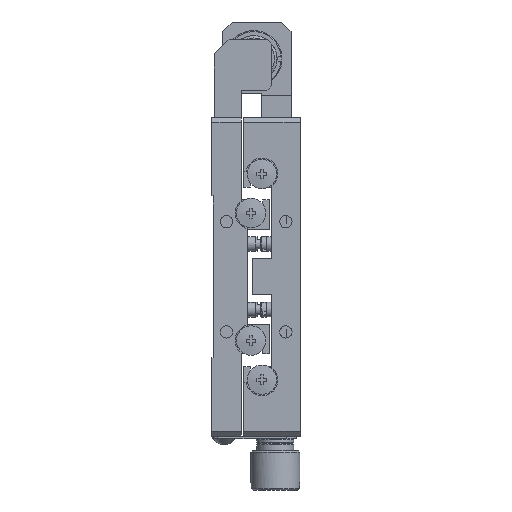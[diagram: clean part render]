
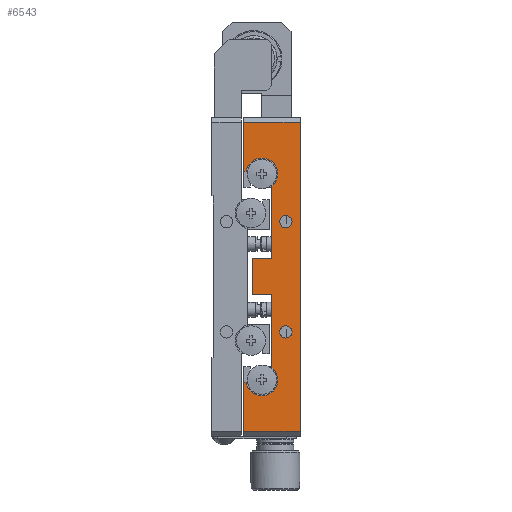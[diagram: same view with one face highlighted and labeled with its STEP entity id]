
A CAD part, left-side view. The second image highlights one B-rep face of the part: STEP entity #6543.
In plain terms, the highlighted planar face has unit normal (-1, 0, 0).
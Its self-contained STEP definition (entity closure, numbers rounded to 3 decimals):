
#114 = CARTESIAN_POINT ( 'NONE',  ( -32.5, 11.5, 32.5 ) ) ;
#155 = FACE_BOUND ( 'NONE', #12787, .T. ) ;
#310 = VECTOR ( 'NONE', #15365, 1000. ) ;
#340 = ORIENTED_EDGE ( 'NONE', *, *, #6687, .F. ) ;
#472 = EDGE_CURVE ( 'NONE', #5428, #7863, #18716, .T. ) ;
#504 = VERTEX_POINT ( 'NONE', #12022 ) ;
#589 = EDGE_CURVE ( 'NONE', #19931, #5428, #1027, .T. ) ;
#759 = LINE ( 'NONE', #7942, #4137 ) ;
#813 = LINE ( 'NONE', #16577, #15025 ) ;
#831 = CARTESIAN_POINT ( 'NONE',  ( -32.5, 5.8, 32.5 ) ) ;
#904 = AXIS2_PLACEMENT_3D ( 'NONE', #18485, #10697, #10835 ) ;
#1012 = CARTESIAN_POINT ( 'NONE',  ( -32.5, 2.9, -11.25 ) ) ;
#1026 = EDGE_CURVE ( 'NONE', #12867, #8911, #4127, .T. ) ;
#1027 = LINE ( 'NONE', #8422, #310 ) ;
#1052 = ORIENTED_EDGE ( 'NONE', *, *, #1026, .F. ) ;
#1083 = ORIENTED_EDGE ( 'NONE', *, *, #9430, .F. ) ;
#1143 = VERTEX_POINT ( 'NONE', #3925 ) ;
#1165 = VERTEX_POINT ( 'NONE', #11311 ) ;
#1468 = EDGE_CURVE ( 'NONE', #504, #14069, #7561, .T. ) ;
#2243 = EDGE_CURVE ( 'NONE', #20029, #8199, #14524, .T. ) ;
#2284 = CARTESIAN_POINT ( 'NONE',  ( -32.5, 0., -31.5 ) ) ;
#2448 = CARTESIAN_POINT ( 'NONE',  ( -32.5, 11.5, 21.5 ) ) ;
#2508 = ORIENTED_EDGE ( 'NONE', *, *, #12154, .F. ) ;
#2547 = DIRECTION ( 'NONE',  ( -1., 0., 0. ) ) ;
#2622 = VECTOR ( 'NONE', #5187, 1000. ) ;
#2884 = EDGE_CURVE ( 'NONE', #8911, #20029, #7381, .T. ) ;
#2938 = CARTESIAN_POINT ( 'NONE',  ( -32.5, 11.5, -21.5 ) ) ;
#3109 = CARTESIAN_POINT ( 'NONE',  ( -32.5, 11.5, 31.5 ) ) ;
#3296 = CARTESIAN_POINT ( 'NONE',  ( -32.5, 11.5, -31.5 ) ) ;
#3396 = EDGE_CURVE ( 'NONE', #14069, #9022, #813, .T. ) ;
#3498 = EDGE_LOOP ( 'NONE', ( #10043, #18094, #6327, #5232, #19143, #8681, #10241, #340, #1083, #12201, #13835, #1052, #2508, #5370 ) ) ;
#3603 = DIRECTION ( 'NONE',  ( 0., 0., 1. ) ) ;
#3925 = CARTESIAN_POINT ( 'NONE',  ( -32.5, 2.9, -10. ) ) ;
#4127 = LINE ( 'NONE', #2938, #5350 ) ;
#4137 = VECTOR ( 'NONE', #14125, 1000. ) ;
#4216 = DIRECTION ( 'NONE',  ( 0., 1., 0. ) ) ;
#4533 = DIRECTION ( 'NONE',  ( -1., 0., 0. ) ) ;
#4587 = VECTOR ( 'NONE', #19395, 1000. ) ;
#4851 = EDGE_CURVE ( 'NONE', #12182, #12182, #17417, .T. ) ;
#4968 = CARTESIAN_POINT ( 'NONE',  ( -32.5, 11.011, -21.5 ) ) ;
#5187 = DIRECTION ( 'NONE',  ( 0., -1., 0. ) ) ;
#5232 = ORIENTED_EDGE ( 'NONE', *, *, #9834, .T. ) ;
#5259 = FACE_OUTER_BOUND ( 'NONE', #3498, .T. ) ;
#5350 = VECTOR ( 'NONE', #15262, 1000. ) ;
#5370 = ORIENTED_EDGE ( 'NONE', *, *, #12664, .F. ) ;
#5428 = VERTEX_POINT ( 'NONE', #13145 ) ;
#5776 = LINE ( 'NONE', #14624, #4587 ) ;
#5981 = CIRCLE ( 'NONE', #6389, 1.25 ) ;
#6026 = DIRECTION ( 'NONE',  ( 0., 0., 1. ) ) ;
#6327 = ORIENTED_EDGE ( 'NONE', *, *, #18557, .F. ) ;
#6389 = AXIS2_PLACEMENT_3D ( 'NONE', #1012, #10202, #13763 ) ;
#6426 = EDGE_CURVE ( 'NONE', #1143, #1143, #5981, .T. ) ;
#6543 = ADVANCED_FACE ( 'NONE', ( #10978, #5259, #155 ), #13911, .F. ) ;
#6687 = EDGE_CURVE ( 'NONE', #1165, #15580, #10219, .T. ) ;
#6848 = ORIENTED_EDGE ( 'NONE', *, *, #4851, .F. ) ;
#7016 = ORIENTED_EDGE ( 'NONE', *, *, #6426, .F. ) ;
#7229 = VERTEX_POINT ( 'NONE', #2448 ) ;
#7381 = CIRCLE ( 'NONE', #904, 3.25 ) ;
#7511 = CARTESIAN_POINT ( 'NONE',  ( -32.5, 11.5, 21.5 ) ) ;
#7554 = CARTESIAN_POINT ( 'NONE',  ( -32.5, 7.8, 21. ) ) ;
#7561 = LINE ( 'NONE', #3109, #12602 ) ;
#7737 = DIRECTION ( 'NONE',  ( 1., 0., 0. ) ) ;
#7863 = VERTEX_POINT ( 'NONE', #10226 ) ;
#7869 = DIRECTION ( 'NONE',  ( 0., 0., -1. ) ) ;
#7942 = CARTESIAN_POINT ( 'NONE',  ( -32.5, 11.5, -3.7 ) ) ;
#8090 = CARTESIAN_POINT ( 'NONE',  ( -32.5, 5.8, -18.438 ) ) ;
#8199 = VERTEX_POINT ( 'NONE', #14034 ) ;
#8422 = CARTESIAN_POINT ( 'NONE',  ( -32.5, 5.8, 32.5 ) ) ;
#8641 = DIRECTION ( 'NONE',  ( 0., 0., 1. ) ) ;
#8681 = ORIENTED_EDGE ( 'NONE', *, *, #589, .F. ) ;
#8911 = VERTEX_POINT ( 'NONE', #4968 ) ;
#9022 = VERTEX_POINT ( 'NONE', #2284 ) ;
#9274 = CARTESIAN_POINT ( 'NONE',  ( -32.5, 5.8, 3.7 ) ) ;
#9430 = EDGE_CURVE ( 'NONE', #8199, #1165, #759, .T. ) ;
#9470 = CARTESIAN_POINT ( 'NONE',  ( -32.5, 2.9, 12.5 ) ) ;
#9834 = EDGE_CURVE ( 'NONE', #7229, #7863, #16895, .T. ) ;
#10043 = ORIENTED_EDGE ( 'NONE', *, *, #3396, .F. ) ;
#10202 = DIRECTION ( 'NONE',  ( -1., 0., 0. ) ) ;
#10219 = LINE ( 'NONE', #11202, #16593 ) ;
#10226 = CARTESIAN_POINT ( 'NONE',  ( -32.5, 11.011, 21.5 ) ) ;
#10241 = ORIENTED_EDGE ( 'NONE', *, *, #15710, .F. ) ;
#10517 = LINE ( 'NONE', #18961, #2622 ) ;
#10697 = DIRECTION ( 'NONE',  ( -1., 0., 0. ) ) ;
#10835 = DIRECTION ( 'NONE',  ( 0., 0., 1. ) ) ;
#10978 = FACE_BOUND ( 'NONE', #19416, .T. ) ;
#11172 = LINE ( 'NONE', #12774, #12350 ) ;
#11202 = CARTESIAN_POINT ( 'NONE',  ( -32.5, 9.8, 32.5 ) ) ;
#11224 = VERTEX_POINT ( 'NONE', #3296 ) ;
#11311 = CARTESIAN_POINT ( 'NONE',  ( -32.5, 9.8, -3.7 ) ) ;
#11354 = CARTESIAN_POINT ( 'NONE',  ( -32.5, 0., 31.5 ) ) ;
#11565 = DIRECTION ( 'NONE',  ( 0., 0., 1. ) ) ;
#12022 = CARTESIAN_POINT ( 'NONE',  ( -32.5, 11.5, 31.5 ) ) ;
#12154 = EDGE_CURVE ( 'NONE', #11224, #12867, #5776, .T. ) ;
#12182 = VERTEX_POINT ( 'NONE', #9470 ) ;
#12201 = ORIENTED_EDGE ( 'NONE', *, *, #2243, .F. ) ;
#12322 = VECTOR ( 'NONE', #11565, 1000. ) ;
#12350 = VECTOR ( 'NONE', #3603, 1000. ) ;
#12602 = VECTOR ( 'NONE', #15500, 1000. ) ;
#12664 = EDGE_CURVE ( 'NONE', #9022, #11224, #17094, .T. ) ;
#12774 = CARTESIAN_POINT ( 'NONE',  ( -32.5, 11.5, 32.5 ) ) ;
#12787 = EDGE_LOOP ( 'NONE', ( #7016 ) ) ;
#12867 = VERTEX_POINT ( 'NONE', #17460 ) ;
#13145 = CARTESIAN_POINT ( 'NONE',  ( -32.5, 5.8, 18.438 ) ) ;
#13252 = DIRECTION ( 'NONE',  ( 0., 0., -1. ) ) ;
#13264 = CARTESIAN_POINT ( 'NONE',  ( -32.5, 11.5, -31.5 ) ) ;
#13763 = DIRECTION ( 'NONE',  ( 0., 0., 1. ) ) ;
#13835 = ORIENTED_EDGE ( 'NONE', *, *, #2884, .F. ) ;
#13911 = PLANE ( 'NONE',  #17516 ) ;
#13932 = VECTOR ( 'NONE', #18480, 1000. ) ;
#14034 = CARTESIAN_POINT ( 'NONE',  ( -32.5, 5.8, -3.7 ) ) ;
#14069 = VERTEX_POINT ( 'NONE', #11354 ) ;
#14125 = DIRECTION ( 'NONE',  ( 0., 1., 0. ) ) ;
#14524 = LINE ( 'NONE', #831, #12322 ) ;
#14624 = CARTESIAN_POINT ( 'NONE',  ( -32.5, 11.5, 32.5 ) ) ;
#15025 = VECTOR ( 'NONE', #13252, 1000. ) ;
#15262 = DIRECTION ( 'NONE',  ( 0., -1., 0. ) ) ;
#15354 = VECTOR ( 'NONE', #4216, 1000. ) ;
#15365 = DIRECTION ( 'NONE',  ( 0., 0., 1. ) ) ;
#15500 = DIRECTION ( 'NONE',  ( 0., -1., 0. ) ) ;
#15580 = VERTEX_POINT ( 'NONE', #18348 ) ;
#15710 = EDGE_CURVE ( 'NONE', #15580, #19931, #10517, .T. ) ;
#16577 = CARTESIAN_POINT ( 'NONE',  ( -32.5, 0., 0. ) ) ;
#16593 = VECTOR ( 'NONE', #8641, 1000. ) ;
#16895 = LINE ( 'NONE', #7511, #13932 ) ;
#17094 = LINE ( 'NONE', #13264, #15354 ) ;
#17417 = CIRCLE ( 'NONE', #18760, 1.25 ) ;
#17460 = CARTESIAN_POINT ( 'NONE',  ( -32.5, 11.5, -21.5 ) ) ;
#17516 = AXIS2_PLACEMENT_3D ( 'NONE', #114, #7737, #7869 ) ;
#17953 = CARTESIAN_POINT ( 'NONE',  ( -32.5, 2.9, 11.25 ) ) ;
#18094 = ORIENTED_EDGE ( 'NONE', *, *, #1468, .F. ) ;
#18348 = CARTESIAN_POINT ( 'NONE',  ( -32.5, 9.8, 3.7 ) ) ;
#18480 = DIRECTION ( 'NONE',  ( 0., -1., 0. ) ) ;
#18485 = CARTESIAN_POINT ( 'NONE',  ( -32.5, 7.8, -21. ) ) ;
#18557 = EDGE_CURVE ( 'NONE', #7229, #504, #11172, .T. ) ;
#18716 = CIRCLE ( 'NONE', #19634, 3.25 ) ;
#18760 = AXIS2_PLACEMENT_3D ( 'NONE', #17953, #2547, #19575 ) ;
#18961 = CARTESIAN_POINT ( 'NONE',  ( -32.5, 11.5, 3.7 ) ) ;
#19143 = ORIENTED_EDGE ( 'NONE', *, *, #472, .F. ) ;
#19395 = DIRECTION ( 'NONE',  ( 0., 0., 1. ) ) ;
#19416 = EDGE_LOOP ( 'NONE', ( #6848 ) ) ;
#19575 = DIRECTION ( 'NONE',  ( 0., 0., 1. ) ) ;
#19634 = AXIS2_PLACEMENT_3D ( 'NONE', #7554, #4533, #6026 ) ;
#19931 = VERTEX_POINT ( 'NONE', #9274 ) ;
#20029 = VERTEX_POINT ( 'NONE', #8090 ) ;
